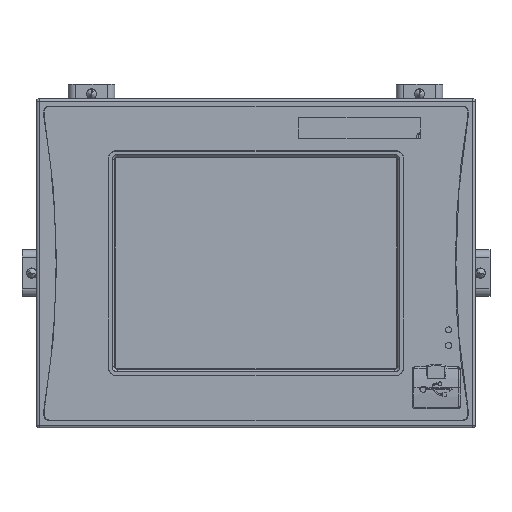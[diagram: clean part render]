
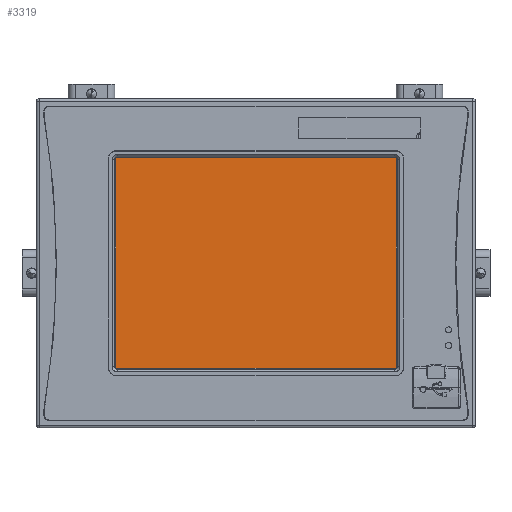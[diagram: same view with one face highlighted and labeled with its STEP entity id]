
A CAD part, top view. The second image highlights one B-rep face of the part: STEP entity #3319.
In plain terms, the highlighted planar face has unit normal (0, 0, 1).
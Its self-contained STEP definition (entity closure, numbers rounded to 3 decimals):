
#194 = CARTESIAN_POINT ( 'NONE',  ( 6.925, 3., 7. ) ) ;
#1766 = CARTESIAN_POINT ( 'NONE',  ( 6.925, 89.4, 7. ) ) ;
#3319 = ADVANCED_FACE ( 'NONE', ( #20692 ), #15089, .T. ) ;
#4985 = LINE ( 'NONE', #28496, #29758 ) ;
#8790 = DIRECTION ( 'NONE',  ( 1., 0., 0. ) ) ;
#9696 = AXIS2_PLACEMENT_3D ( 'NONE', #33092, #10351, #27939 ) ;
#10280 = VERTEX_POINT ( 'NONE', #1766 ) ;
#10351 = DIRECTION ( 'NONE',  ( 0., 0., 1. ) ) ;
#11747 = VECTOR ( 'NONE', #16841, 1000. ) ;
#12805 = VERTEX_POINT ( 'NONE', #194 ) ;
#13749 = VERTEX_POINT ( 'NONE', #36242 ) ;
#13880 = EDGE_CURVE ( 'NONE', #12805, #30095, #4985, .T. ) ;
#13964 = CARTESIAN_POINT ( 'NONE',  ( 6.925, 89.4, 7. ) ) ;
#14886 = EDGE_CURVE ( 'NONE', #10280, #12805, #26704, .T. ) ;
#15089 = PLANE ( 'NONE',  #9696 ) ;
#16841 = DIRECTION ( 'NONE',  ( 0., -1., 0. ) ) ;
#17301 = CARTESIAN_POINT ( 'NONE',  ( 6.925, 89.4, 7. ) ) ;
#18156 = ORIENTED_EDGE ( 'NONE', *, *, #24268, .T. ) ;
#19217 = EDGE_LOOP ( 'NONE', ( #33965, #19930, #19692, #18156 ) ) ;
#19667 = CARTESIAN_POINT ( 'NONE',  ( 122.125, 3., 7. ) ) ;
#19692 = ORIENTED_EDGE ( 'NONE', *, *, #31532, .T. ) ;
#19930 = ORIENTED_EDGE ( 'NONE', *, *, #13880, .T. ) ;
#19994 = DIRECTION ( 'NONE',  ( -1., 0., 0. ) ) ;
#20692 = FACE_OUTER_BOUND ( 'NONE', #19217, .T. ) ;
#20806 = VECTOR ( 'NONE', #19994, 1000. ) ;
#21689 = CARTESIAN_POINT ( 'NONE',  ( 122.125, 89.4, 7. ) ) ;
#24268 = EDGE_CURVE ( 'NONE', #13749, #10280, #28190, .T. ) ;
#24509 = DIRECTION ( 'NONE',  ( 0., 1., 0. ) ) ;
#26704 = LINE ( 'NONE', #13964, #11747 ) ;
#27939 = DIRECTION ( 'NONE',  ( 1., 0., 0. ) ) ;
#28190 = LINE ( 'NONE', #17301, #20806 ) ;
#28496 = CARTESIAN_POINT ( 'NONE',  ( 6.925, 3., 7. ) ) ;
#29758 = VECTOR ( 'NONE', #8790, 1000. ) ;
#29995 = LINE ( 'NONE', #21689, #36611 ) ;
#30095 = VERTEX_POINT ( 'NONE', #19667 ) ;
#31532 = EDGE_CURVE ( 'NONE', #30095, #13749, #29995, .T. ) ;
#33092 = CARTESIAN_POINT ( 'NONE',  ( 6.925, 3., 7. ) ) ;
#33965 = ORIENTED_EDGE ( 'NONE', *, *, #14886, .T. ) ;
#36242 = CARTESIAN_POINT ( 'NONE',  ( 122.125, 89.4, 7. ) ) ;
#36611 = VECTOR ( 'NONE', #24509, 1000. ) ;
